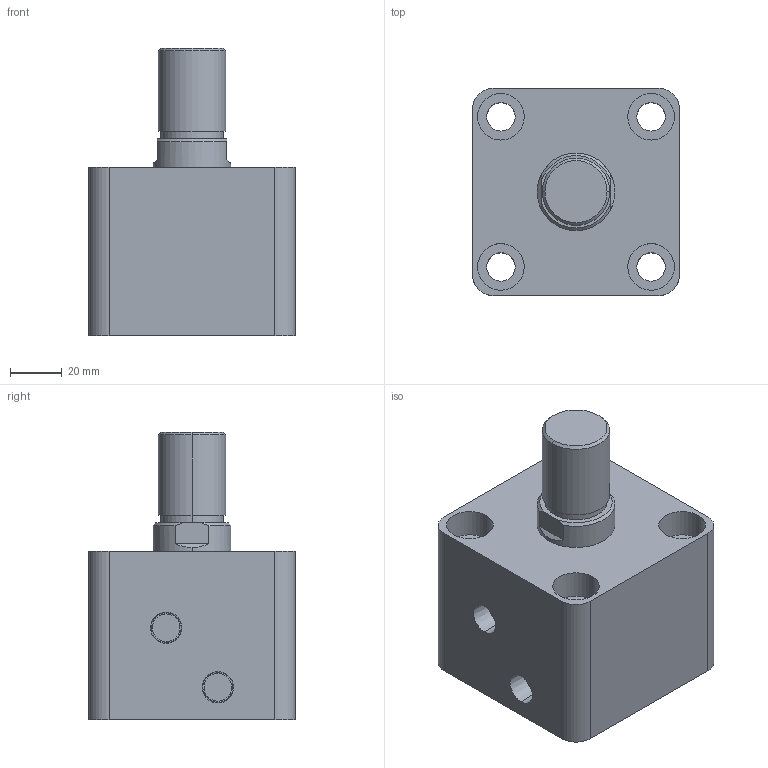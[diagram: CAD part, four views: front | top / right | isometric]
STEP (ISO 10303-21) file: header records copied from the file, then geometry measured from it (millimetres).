
FILE_DESCRIPTION (( 'STEP AP203' ), '1' );
FILE_NAME ('HTB-SD50-5W.STEP', '2019-10-07T07:05:39', ( '微软用户' ), ( '微软中国' ), 'SwSTEP 2.0', 'SolidWorks 2012', '' );
FILE_SCHEMA (( 'CONFIG_CONTROL_DESIGN' ));
Length unit declared in the file: millimetre
Products named in the file (3): HTB-SD50-5W活塞杆; HTB-SD50-5W; HTB-SD50-5掛极
Assembly tree (2 placements, depth 2):
  HTB-SD50-5W
    HTB-SD50-5掛极
    HTB-SD50-5W活塞杆
Bounding box: 80 x 80 x 111 mm (x, y, z)
Volume: 390811.5 mm3; surface area: 66992.4 mm2
Topology: 2 solids, 2 shells, 87 faces, 190 edges, 124 vertices
Faces by surface type: cylinder 44, plane 29, cone 8, torus 6
Entity records: 2761 total; most frequent: DIRECTION 478, CARTESIAN_POINT 434, ORIENTED_EDGE 380, AXIS2_PLACEMENT_3D 204, EDGE_CURVE 190, VERTEX_POINT 124, CIRCLE 112, EDGE_LOOP 112
